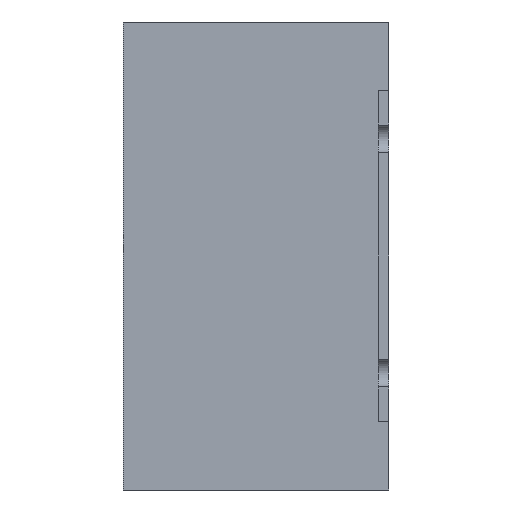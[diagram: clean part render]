
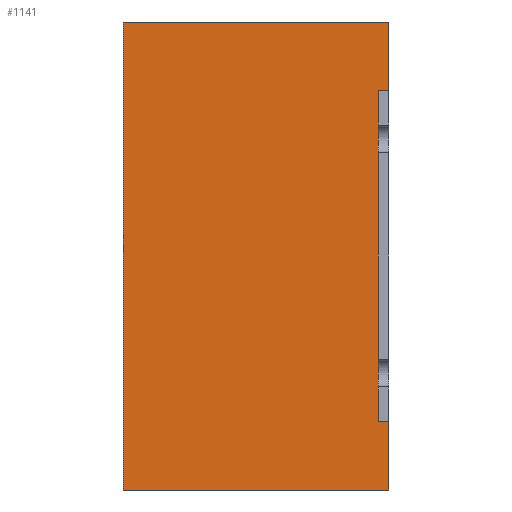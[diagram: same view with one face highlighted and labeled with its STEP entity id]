
A CAD part, left-side view. The second image highlights one B-rep face of the part: STEP entity #1141.
In plain terms, the highlighted planar face has unit normal (-1, 0, 0).
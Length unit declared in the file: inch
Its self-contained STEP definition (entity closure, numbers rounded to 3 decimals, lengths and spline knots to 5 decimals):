
#45=DIRECTION('',(0.,0.,1.));
#46=VECTOR('',#45,0.39);
#47=CARTESIAN_POINT('',(-4.43,0.,-1.34));
#48=LINE('',#47,#46);
#95=DIRECTION('',(0.,0.,1.));
#96=VECTOR('',#95,0.39);
#97=CARTESIAN_POINT('',(-4.43,0.,0.95));
#98=LINE('',#97,#96);
#185=DIRECTION('',(0.,1.,0.));
#186=VECTOR('',#185,0.06);
#187=CARTESIAN_POINT('',(-4.43,0.,-0.95));
#188=LINE('',#187,#186);
#217=DIRECTION('',(0.,0.,-1.));
#218=VECTOR('',#217,1.9);
#219=CARTESIAN_POINT('',(-4.43,0.06,0.95));
#220=LINE('',#219,#218);
#369=DIRECTION('',(0.,1.,0.));
#370=VECTOR('',#369,0.06);
#371=CARTESIAN_POINT('',(-4.43,0.,0.95));
#372=LINE('',#371,#370);
#385=DIRECTION('',(0.,1.,0.));
#386=VECTOR('',#385,1.52);
#387=CARTESIAN_POINT('',(-4.43,0.,-1.34));
#388=LINE('',#387,#386);
#401=DIRECTION('',(0.,0.,1.));
#402=VECTOR('',#401,2.68);
#403=CARTESIAN_POINT('',(-4.43,1.52,-1.34));
#404=LINE('',#403,#402);
#425=DIRECTION('',(0.,1.,0.));
#426=VECTOR('',#425,1.52);
#427=CARTESIAN_POINT('',(-4.43,0.,1.34));
#428=LINE('',#427,#426);
#686=CARTESIAN_POINT('',(-4.43,0.,-1.34));
#688=VERTEX_POINT('',#686);
#689=CARTESIAN_POINT('',(-4.43,0.,1.34));
#691=VERTEX_POINT('',#689);
#697=CARTESIAN_POINT('',(-4.43,1.52,-1.34));
#698=VERTEX_POINT('',#697);
#699=CARTESIAN_POINT('',(-4.43,1.52,1.34));
#700=VERTEX_POINT('',#699);
#705=CARTESIAN_POINT('',(-4.43,0.06,0.95));
#706=CARTESIAN_POINT('',(-4.43,0.06,-0.95));
#707=VERTEX_POINT('',#705);
#708=VERTEX_POINT('',#706);
#711=CARTESIAN_POINT('',(-4.43,0.,0.95));
#712=VERTEX_POINT('',#711);
#715=CARTESIAN_POINT('',(-4.43,0.,-0.95));
#716=VERTEX_POINT('',#715);
#1123=CARTESIAN_POINT('',(-4.43,0.,-1.34));
#1124=DIRECTION('',(-1.,0.,0.));
#1125=DIRECTION('',(0.,0.,1.));
#1126=AXIS2_PLACEMENT_3D('',#1123,#1124,#1125);
#1127=PLANE('',#1126);
#1128=ORIENTED_EDGE('',*,*,#945,.T.);
#1129=ORIENTED_EDGE('',*,*,#865,.F.);
#1130=ORIENTED_EDGE('',*,*,#776,.F.);
#1132=ORIENTED_EDGE('',*,*,#1131,.T.);
#1134=ORIENTED_EDGE('',*,*,#1133,.T.);
#1136=ORIENTED_EDGE('',*,*,#1135,.F.);
#1137=ORIENTED_EDGE('',*,*,#800,.F.);
#1138=ORIENTED_EDGE('',*,*,#1087,.T.);
#1139=EDGE_LOOP('',(#1128,#1129,#1130,#1132,#1134,#1136,#1137,#1138));
#1140=FACE_OUTER_BOUND('',#1139,.F.);
#1141=ADVANCED_FACE('',(#1140),#1127,.T.);
#776=EDGE_CURVE('',#688,#716,#48,.T.);
#800=EDGE_CURVE('',#712,#691,#98,.T.);
#865=EDGE_CURVE('',#716,#708,#188,.T.);
#945=EDGE_CURVE('',#707,#708,#220,.T.);
#1087=EDGE_CURVE('',#712,#707,#372,.T.);
#1131=EDGE_CURVE('',#688,#698,#388,.T.);
#1133=EDGE_CURVE('',#698,#700,#404,.T.);
#1135=EDGE_CURVE('',#691,#700,#428,.T.);
